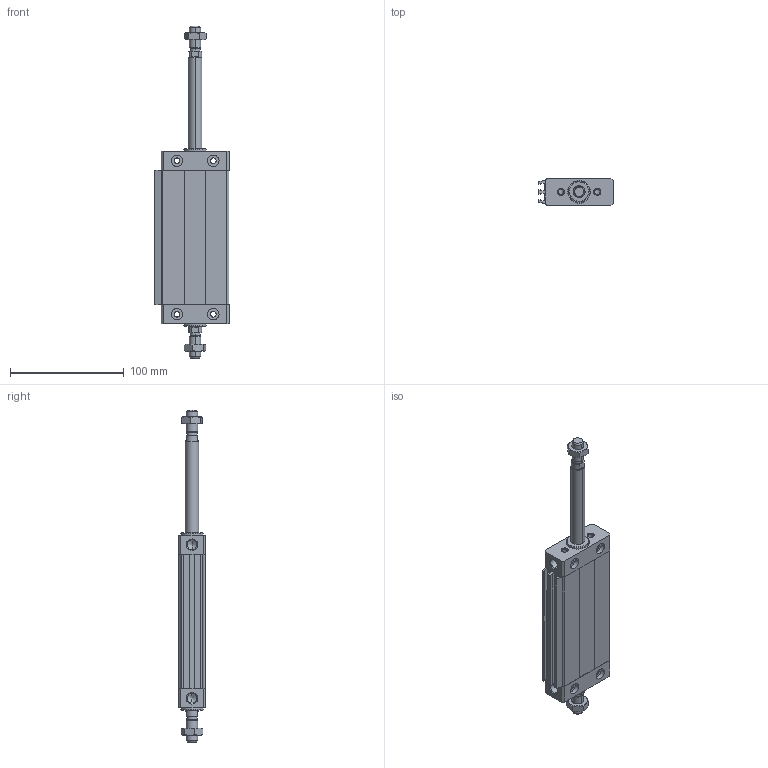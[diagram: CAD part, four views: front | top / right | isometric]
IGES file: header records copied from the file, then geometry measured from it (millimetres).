
Global section: file name: No Iges File Name specified; native system: Autodesk Inventor 2011; preprocessor: AutoDesk Inventor Iges Exporter R2011; author: airolcr1; date: 20101213.152955; units: millimetre
Bounding box: 65.5 x 24 x 292 mm (x, y, z)
Volume: 169891.6 mm3; surface area: 72641.8 mm2
Topology: 6 solids, 6 shells, 274 faces, 646 edges, 392 vertices
Faces by surface type: bspline 110, plane 96, cone 36, cylinder 18, revolution 14
